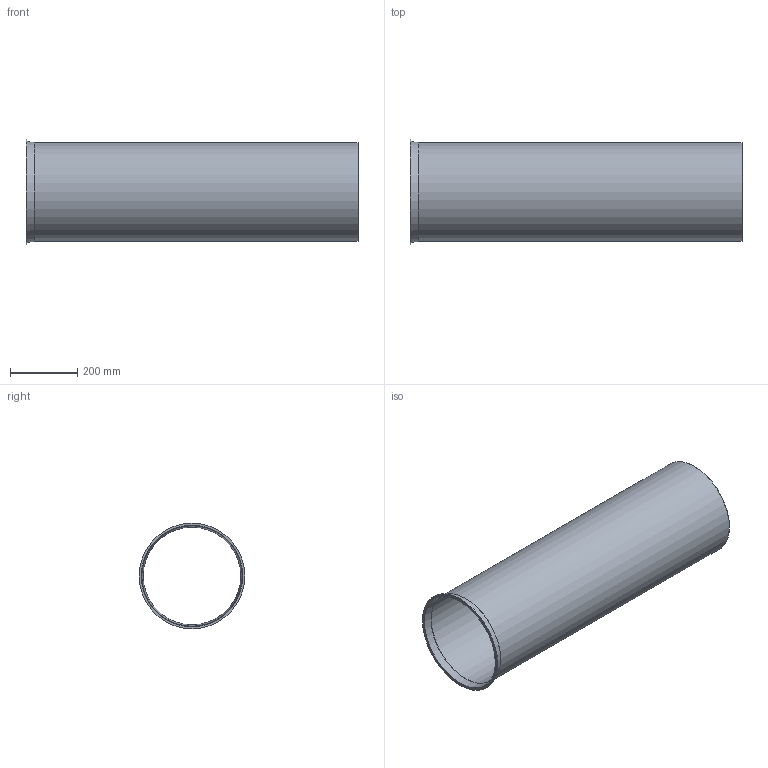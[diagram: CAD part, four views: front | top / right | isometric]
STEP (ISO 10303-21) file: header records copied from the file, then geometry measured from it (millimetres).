
FILE_DESCRIPTION((''),'2;1');
FILE_NAME('U:\Wolfgang\Marcel-3D\fertig\Kapitel 1\3011006.stp','2010-05-31T11:38:15',('TK2'),(''),'Autodesk Inventor 2010','Autodesk Inventor 2010','');
FILE_SCHEMA(('AUTOMOTIVE_DESIGN { 1 0 10303 214 1 1 1 1 }'));
Length unit declared in the file: millimetre
Products named in the file (1): 3011006
Bounding box: 991 x 315 x 315 mm (x, y, z)
Volume: 1837099.1 mm3; surface area: 1840908.4 mm2
Topology: 1 solids, 1 shells, 8 faces, 14 edges, 9 vertices
Faces by surface type: cylinder 3, plane 3, cone 2
Full cylindrical faces by diameter (mm): 291 x1, 295 x1, 315 x1
Entity records: 194 total; most frequent: DIRECTION 34, CARTESIAN_POINT 25, AXIS2_PLACEMENT_3D 17, ORIENTED_EDGE 16, EDGE_LOOP 16, VERTEX_POINT 8, CIRCLE 8, EDGE_CURVE 8
